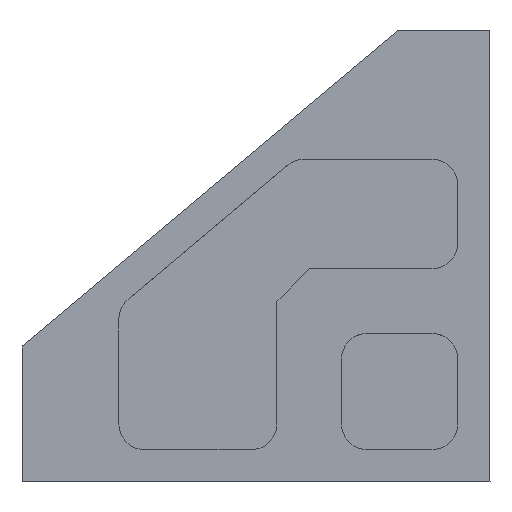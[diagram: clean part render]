
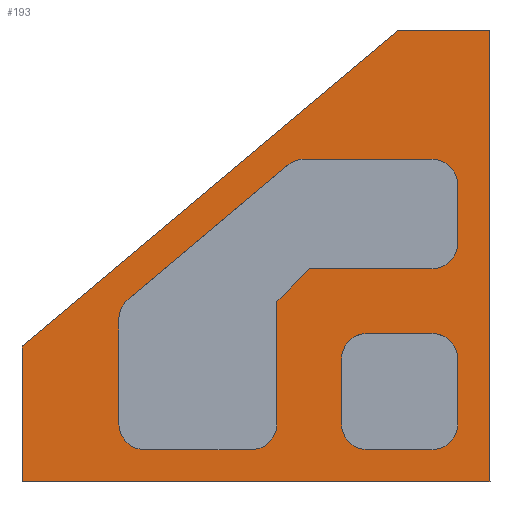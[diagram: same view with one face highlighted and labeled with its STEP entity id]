
A CAD part, top view. The second image highlights one B-rep face of the part: STEP entity #193.
In plain terms, the highlighted planar face has unit normal (0, 0, 1).
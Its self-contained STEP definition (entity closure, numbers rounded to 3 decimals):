
#97=FACE_BOUND('',#363,.F.);
#98=FACE_BOUND('',#364,.F.);
#193=ADVANCED_FACE('',(#97,#98,#276),#826,.T.);
#276=FACE_OUTER_BOUND('',#365,.F.);
#363=EDGE_LOOP('',(#473,#474,#475,#476,#477,#478,#479,#480,#481,#482,#483,
#484,#485,#486));
#364=EDGE_LOOP('',(#487,#488,#489,#490,#491,#492,#493,#494));
#365=EDGE_LOOP('',(#495,#496,#497,#498,#499));
#473=ORIENTED_EDGE('',*,*,#1483,.T.);
#474=ORIENTED_EDGE('',*,*,#1496,.T.);
#475=ORIENTED_EDGE('',*,*,#1495,.T.);
#476=ORIENTED_EDGE('',*,*,#1494,.T.);
#477=ORIENTED_EDGE('',*,*,#1493,.T.);
#478=ORIENTED_EDGE('',*,*,#1492,.T.);
#479=ORIENTED_EDGE('',*,*,#1491,.T.);
#480=ORIENTED_EDGE('',*,*,#1490,.T.);
#481=ORIENTED_EDGE('',*,*,#1489,.T.);
#482=ORIENTED_EDGE('',*,*,#1488,.T.);
#483=ORIENTED_EDGE('',*,*,#1487,.T.);
#484=ORIENTED_EDGE('',*,*,#1486,.T.);
#485=ORIENTED_EDGE('',*,*,#1485,.T.);
#486=ORIENTED_EDGE('',*,*,#1484,.T.);
#487=ORIENTED_EDGE('',*,*,#1475,.T.);
#488=ORIENTED_EDGE('',*,*,#1482,.T.);
#489=ORIENTED_EDGE('',*,*,#1481,.T.);
#490=ORIENTED_EDGE('',*,*,#1480,.T.);
#491=ORIENTED_EDGE('',*,*,#1479,.T.);
#492=ORIENTED_EDGE('',*,*,#1478,.T.);
#493=ORIENTED_EDGE('',*,*,#1477,.T.);
#494=ORIENTED_EDGE('',*,*,#1476,.T.);
#495=ORIENTED_EDGE('',*,*,#1516,.T.);
#496=ORIENTED_EDGE('',*,*,#1504,.T.);
#497=ORIENTED_EDGE('',*,*,#1511,.T.);
#498=ORIENTED_EDGE('',*,*,#1517,.T.);
#499=ORIENTED_EDGE('',*,*,#1499,.T.);
#826=PLANE('',#2037);
#1391=CIRCLE('',#1982,4.);
#1392=CIRCLE('',#1983,4.);
#1393=CIRCLE('',#1984,4.);
#1394=CIRCLE('',#1985,4.);
#1395=CIRCLE('',#1986,4.);
#1396=CIRCLE('',#1987,4.);
#1397=CIRCLE('',#1988,4.);
#1398=CIRCLE('',#1989,4.);
#1399=CIRCLE('',#1990,4.);
#1400=CIRCLE('',#1991,4.);
#1475=EDGE_CURVE('',#1947,#1946,#1660,.T.);
#1476=EDGE_CURVE('',#1945,#1947,#1391,.T.);
#1477=EDGE_CURVE('',#1944,#1945,#1661,.T.);
#1478=EDGE_CURVE('',#1943,#1944,#1392,.T.);
#1479=EDGE_CURVE('',#1942,#1943,#1662,.T.);
#1480=EDGE_CURVE('',#1941,#1942,#1393,.T.);
#1481=EDGE_CURVE('',#1940,#1941,#1663,.T.);
#1482=EDGE_CURVE('',#1946,#1940,#1394,.T.);
#1483=EDGE_CURVE('',#1939,#1938,#1664,.T.);
#1484=EDGE_CURVE('',#1937,#1939,#1395,.T.);
#1485=EDGE_CURVE('',#1936,#1937,#1665,.T.);
#1486=EDGE_CURVE('',#1935,#1936,#1396,.T.);
#1487=EDGE_CURVE('',#1934,#1935,#1666,.T.);
#1488=EDGE_CURVE('',#1933,#1934,#1397,.T.);
#1489=EDGE_CURVE('',#1932,#1933,#1667,.T.);
#1490=EDGE_CURVE('',#1931,#1932,#1398,.T.);
#1491=EDGE_CURVE('',#1930,#1931,#1668,.T.);
#1492=EDGE_CURVE('',#1929,#1930,#1399,.T.);
#1493=EDGE_CURVE('',#1928,#1929,#1669,.T.);
#1494=EDGE_CURVE('',#1927,#1928,#1670,.T.);
#1495=EDGE_CURVE('',#1926,#1927,#1671,.T.);
#1496=EDGE_CURVE('',#1938,#1926,#1400,.T.);
#1499=EDGE_CURVE('',#1923,#1922,#1672,.T.);
#1504=EDGE_CURVE('',#1917,#1918,#1677,.T.);
#1511=EDGE_CURVE('',#1918,#1911,#1680,.T.);
#1516=EDGE_CURVE('',#1922,#1917,#1683,.T.);
#1517=EDGE_CURVE('',#1911,#1923,#1684,.T.);
#1660=LINE('',#2688,#1761);
#1661=LINE('',#2690,#1762);
#1662=LINE('',#2692,#1763);
#1663=LINE('',#2694,#1764);
#1664=LINE('',#2696,#1765);
#1665=LINE('',#2698,#1766);
#1666=LINE('',#2700,#1767);
#1667=LINE('',#2702,#1768);
#1668=LINE('',#2704,#1769);
#1669=LINE('',#2706,#1770);
#1670=LINE('',#2707,#1771);
#1671=LINE('',#2708,#1772);
#1672=LINE('',#2712,#1773);
#1677=LINE('',#2717,#1778);
#1680=LINE('',#2724,#1781);
#1683=LINE('',#2729,#1784);
#1684=LINE('',#2730,#1785);
#1761=VECTOR('',#2156,10.);
#1762=VECTOR('',#2159,10.);
#1763=VECTOR('',#2162,10.);
#1764=VECTOR('',#2165,10.);
#1765=VECTOR('',#2168,16.5);
#1766=VECTOR('',#2171,16.243);
#1767=VECTOR('',#2174,32.293);
#1768=VECTOR('',#2177,19.762);
#1769=VECTOR('',#2180,9.);
#1770=VECTOR('',#2183,19.);
#1771=VECTOR('',#2184,7.071);
#1772=VECTOR('',#2185,19.);
#1773=VECTOR('',#2192,76.155);
#1778=VECTOR('',#2197,70.);
#1781=VECTOR('',#2208,72.5);
#1784=VECTOR('',#2215,14.162);
#1785=VECTOR('',#2216,21.048);
#1911=VERTEX_POINT('',#2651);
#1917=VERTEX_POINT('',#2657);
#1918=VERTEX_POINT('',#2658);
#1922=VERTEX_POINT('',#2662);
#1923=VERTEX_POINT('',#2663);
#1926=VERTEX_POINT('',#2666);
#1927=VERTEX_POINT('',#2667);
#1928=VERTEX_POINT('',#2668);
#1929=VERTEX_POINT('',#2669);
#1930=VERTEX_POINT('',#2670);
#1931=VERTEX_POINT('',#2671);
#1932=VERTEX_POINT('',#2672);
#1933=VERTEX_POINT('',#2673);
#1934=VERTEX_POINT('',#2674);
#1935=VERTEX_POINT('',#2675);
#1936=VERTEX_POINT('',#2676);
#1937=VERTEX_POINT('',#2677);
#1938=VERTEX_POINT('',#2678);
#1939=VERTEX_POINT('',#2679);
#1940=VERTEX_POINT('',#2680);
#1941=VERTEX_POINT('',#2681);
#1942=VERTEX_POINT('',#2682);
#1943=VERTEX_POINT('',#2683);
#1944=VERTEX_POINT('',#2684);
#1945=VERTEX_POINT('',#2685);
#1946=VERTEX_POINT('',#2686);
#1947=VERTEX_POINT('',#2687);
#1982=AXIS2_PLACEMENT_3D('',#2689,#2157,#2158);
#1983=AXIS2_PLACEMENT_3D('',#2691,#2160,#2161);
#1984=AXIS2_PLACEMENT_3D('',#2693,#2163,#2164);
#1985=AXIS2_PLACEMENT_3D('',#2695,#2166,#2167);
#1986=AXIS2_PLACEMENT_3D('',#2697,#2169,#2170);
#1987=AXIS2_PLACEMENT_3D('',#2699,#2172,#2173);
#1988=AXIS2_PLACEMENT_3D('',#2701,#2175,#2176);
#1989=AXIS2_PLACEMENT_3D('',#2703,#2178,#2179);
#1990=AXIS2_PLACEMENT_3D('',#2705,#2181,#2182);
#1991=AXIS2_PLACEMENT_3D('',#2709,#2186,#2187);
#2037=AXIS2_PLACEMENT_3D('',#2820,#2343,#2344);
#2156=DIRECTION('',(-1.,0.,0.));
#2157=DIRECTION('',(0.,0.,1.));
#2158=DIRECTION('',(1.,0.,0.));
#2159=DIRECTION('',(0.,1.,0.));
#2160=DIRECTION('',(0.,0.,1.));
#2161=DIRECTION('',(0.,-1.,0.));
#2162=DIRECTION('',(1.,0.,0.));
#2163=DIRECTION('',(0.,0.,1.));
#2164=DIRECTION('',(-1.,0.,0.));
#2165=DIRECTION('',(0.,-1.,0.));
#2166=DIRECTION('',(0.,0.,1.));
#2167=DIRECTION('',(0.,1.,0.));
#2168=DIRECTION('',(1.,0.,0.));
#2169=DIRECTION('',(0.,0.,1.));
#2170=DIRECTION('',(-1.,0.,0.));
#2171=DIRECTION('',(0.,-1.,0.));
#2172=DIRECTION('',(0.,0.,1.));
#2173=DIRECTION('',(-0.643,0.766,0.));
#2174=DIRECTION('',(-0.766,-0.643,0.));
#2175=DIRECTION('',(0.,0.,1.));
#2176=DIRECTION('',(0.,1.,0.));
#2177=DIRECTION('',(-1.,0.,0.));
#2178=DIRECTION('',(0.,0.,1.));
#2179=DIRECTION('',(1.,0.,0.));
#2180=DIRECTION('',(0.,1.,0.));
#2181=DIRECTION('',(0.,0.,1.));
#2182=DIRECTION('',(0.,-1.,0.));
#2183=DIRECTION('',(1.,0.,0.));
#2184=DIRECTION('',(0.707,0.707,0.));
#2185=DIRECTION('',(0.,1.,0.));
#2186=DIRECTION('',(0.,0.,1.));
#2187=DIRECTION('',(0.,-1.,0.));
#2192=DIRECTION('',(0.766,0.643,0.));
#2197=DIRECTION('',(0.,-1.,0.));
#2208=DIRECTION('',(-1.,0.,0.));
#2215=DIRECTION('',(1.,0.,0.));
#2216=DIRECTION('',(0.,1.,0.));
#2343=DIRECTION('',(0.,0.,1.));
#2344=DIRECTION('',(1.,0.,0.));
#2651=CARTESIAN_POINT('',(836.875,381.252,335.164));
#2657=CARTESIAN_POINT('',(909.375,451.252,335.164));
#2658=CARTESIAN_POINT('',(909.375,381.252,335.164));
#2662=CARTESIAN_POINT('',(895.213,451.252,335.164));
#2663=CARTESIAN_POINT('',(836.875,402.301,335.164));
#2666=CARTESIAN_POINT('',(876.375,390.252,335.164));
#2667=CARTESIAN_POINT('',(876.375,409.252,335.164));
#2668=CARTESIAN_POINT('',(881.375,414.252,335.164));
#2669=CARTESIAN_POINT('',(900.375,414.252,335.164));
#2670=CARTESIAN_POINT('',(904.375,418.252,335.164));
#2671=CARTESIAN_POINT('',(904.375,427.252,335.164));
#2672=CARTESIAN_POINT('',(900.375,431.252,335.164));
#2673=CARTESIAN_POINT('',(880.613,431.252,335.164));
#2674=CARTESIAN_POINT('',(878.042,430.316,335.164));
#2675=CARTESIAN_POINT('',(853.304,409.559,335.164));
#2676=CARTESIAN_POINT('',(851.875,406.495,335.164));
#2677=CARTESIAN_POINT('',(851.875,390.252,335.164));
#2678=CARTESIAN_POINT('',(872.375,386.252,335.164));
#2679=CARTESIAN_POINT('',(855.875,386.252,335.164));
#2680=CARTESIAN_POINT('',(886.375,400.252,335.164));
#2681=CARTESIAN_POINT('',(886.375,390.252,335.164));
#2682=CARTESIAN_POINT('',(890.375,386.252,335.164));
#2683=CARTESIAN_POINT('',(900.375,386.252,335.164));
#2684=CARTESIAN_POINT('',(904.375,390.252,335.164));
#2685=CARTESIAN_POINT('',(904.375,400.252,335.164));
#2686=CARTESIAN_POINT('',(890.375,404.252,335.164));
#2687=CARTESIAN_POINT('',(900.375,404.252,335.164));
#2688=CARTESIAN_POINT('',(900.375,404.252,335.164));
#2689=CARTESIAN_POINT('',(900.375,400.252,335.164));
#2690=CARTESIAN_POINT('',(904.375,390.252,335.164));
#2691=CARTESIAN_POINT('',(900.375,390.252,335.164));
#2692=CARTESIAN_POINT('',(890.375,386.252,335.164));
#2693=CARTESIAN_POINT('',(890.375,390.252,335.164));
#2694=CARTESIAN_POINT('',(886.375,400.252,335.164));
#2695=CARTESIAN_POINT('',(890.375,400.252,335.164));
#2696=CARTESIAN_POINT('',(855.875,386.252,335.164));
#2697=CARTESIAN_POINT('',(855.875,390.252,335.164));
#2698=CARTESIAN_POINT('',(851.875,406.495,335.164));
#2699=CARTESIAN_POINT('',(855.875,406.495,335.164));
#2700=CARTESIAN_POINT('',(878.042,430.316,335.164));
#2701=CARTESIAN_POINT('',(880.613,427.252,335.164));
#2702=CARTESIAN_POINT('',(900.375,431.252,335.164));
#2703=CARTESIAN_POINT('',(900.375,427.252,335.164));
#2704=CARTESIAN_POINT('',(904.375,418.252,335.164));
#2705=CARTESIAN_POINT('',(900.375,418.252,335.164));
#2706=CARTESIAN_POINT('',(881.375,414.252,335.164));
#2707=CARTESIAN_POINT('',(876.375,409.252,335.164));
#2708=CARTESIAN_POINT('',(876.375,390.252,335.164));
#2709=CARTESIAN_POINT('',(872.375,390.252,335.164));
#2712=CARTESIAN_POINT('',(836.875,402.301,335.164));
#2717=CARTESIAN_POINT('',(909.375,451.252,335.164));
#2724=CARTESIAN_POINT('',(909.375,381.252,335.164));
#2729=CARTESIAN_POINT('',(895.213,451.252,335.164));
#2730=CARTESIAN_POINT('',(836.875,381.252,335.164));
#2820=CARTESIAN_POINT('',(836.15,380.527,335.164));
